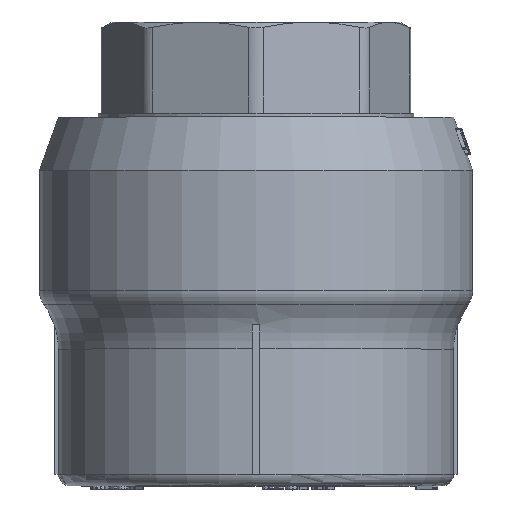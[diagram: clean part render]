
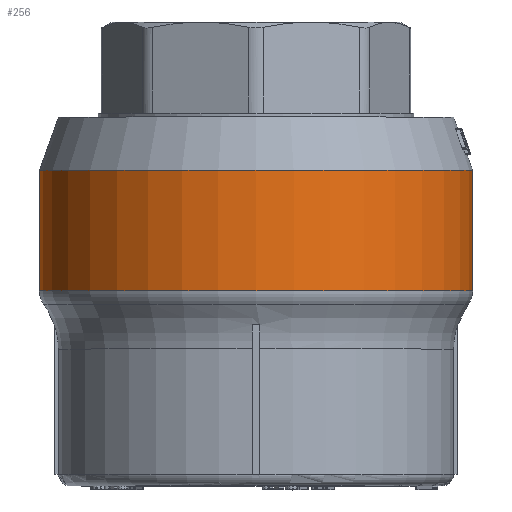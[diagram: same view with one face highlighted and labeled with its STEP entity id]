
A CAD part, top view. The second image highlights one B-rep face of the part: STEP entity #256.
In plain terms, the highlighted cylindrical face has radius 28.5 mm (diameter 57 mm), a full revolution.
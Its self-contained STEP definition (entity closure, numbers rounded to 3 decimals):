
#256=ADVANCED_FACE('',(#1160,#1162),#1164,.T.);
#1160=FACE_OUTER_BOUND('',#1161,.T.);
#1161=EDGE_LOOP('',(#6879));
#1162=FACE_OUTER_BOUND('',#1163,.T.);
#1163=EDGE_LOOP('',(#6880));
#1164=CYLINDRICAL_SURFACE('',#1165,28.5);
#1165=AXIS2_PLACEMENT_3D('',#1166,#1167,#1168);
#1166=CARTESIAN_POINT('',(0.,24.6,0.));
#1167=DIRECTION('',(0.,1.,0.));
#1168=DIRECTION('',(-1.,0.,0.));
#6879=ORIENTED_EDGE('',*,*,#12200,.T.);
#6880=ORIENTED_EDGE('',*,*,#12334,.T.);
#12200=EDGE_CURVE('',#14359,#14359,#14360,.T.);
#12334=EDGE_CURVE('',#14627,#14627,#14628,.T.);
#14359=VERTEX_POINT('',#17978);
#14360=CIRCLE('',#17979,28.5);
#14627=VERTEX_POINT('',#19200);
#14628=CIRCLE('',#19201,28.5);
#17978=CARTESIAN_POINT('',(-28.5,41.5,0.));
#17979=AXIS2_PLACEMENT_3D('',#17980,#17981,#17982);
#17980=CARTESIAN_POINT('',(0.,41.5,0.));
#17981=DIRECTION('',(0.,-1.,0.));
#17982=DIRECTION('',(-1.,0.,0.));
#19200=CARTESIAN_POINT('',(-28.5,25.65,0.));
#19201=AXIS2_PLACEMENT_3D('',#19202,#19203,#19204);
#19202=CARTESIAN_POINT('',(0.,25.65,0.));
#19203=DIRECTION('',(0.,1.,0.));
#19204=DIRECTION('',(-1.,0.,0.));
